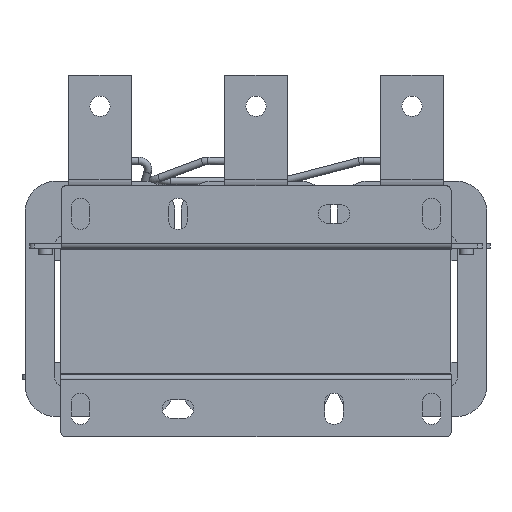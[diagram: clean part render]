
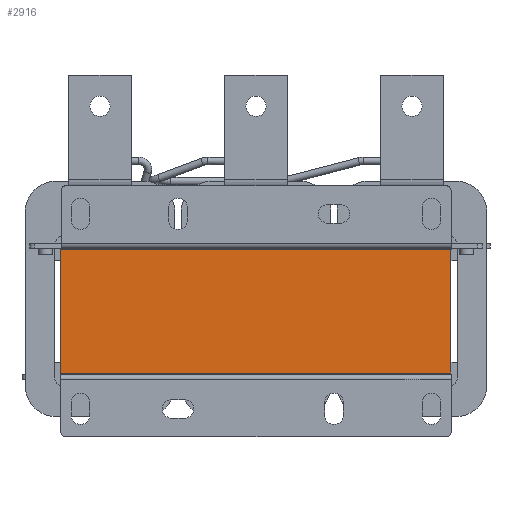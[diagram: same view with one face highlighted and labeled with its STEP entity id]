
A CAD part, front view. The second image highlights one B-rep face of the part: STEP entity #2916.
In plain terms, the highlighted planar face has unit normal (0, -1, 0).
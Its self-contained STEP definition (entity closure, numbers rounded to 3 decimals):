
#2916=ADVANCED_FACE('',(#9805),#9807,.F.);
#9805=FACE_BOUND('',#9806,.T.);
#9806=EDGE_LOOP('',(#18715,#18716,#18717,#18718));
#9807=PLANE('',#9808);
#9808=AXIS2_PLACEMENT_3D('',#9809,#9810,#9811);
#9809=CARTESIAN_POINT('',(-125.,-139.5,79.));
#9810=DIRECTION('',(0.,1.,0.));
#9811=DIRECTION('',(0.,0.,1.));
#18715=ORIENTED_EDGE('',*,*,#22254,.T.);
#18716=ORIENTED_EDGE('',*,*,#22266,.F.);
#18717=ORIENTED_EDGE('',*,*,#22244,.F.);
#18718=ORIENTED_EDGE('',*,*,#22268,.T.);
#22244=EDGE_CURVE('',#24045,#24040,#24047,.T.);
#22254=EDGE_CURVE('',#24067,#24064,#24068,.T.);
#22266=EDGE_CURVE('',#24040,#24064,#24089,.T.);
#22268=EDGE_CURVE('',#24045,#24067,#24091,.T.);
#24040=VERTEX_POINT('',#27085);
#24045=VERTEX_POINT('',#27094);
#24047=LINE('',#27098,#27099);
#24064=VERTEX_POINT('',#27133);
#24067=VERTEX_POINT('',#27138);
#24068=LINE('',#27139,#27140);
#24089=LINE('',#27184,#27185);
#24091=LINE('',#27190,#27191);
#27085=CARTESIAN_POINT('',(125.,-139.5,79.));
#27094=CARTESIAN_POINT('',(-125.,-139.5,79.));
#27098=CARTESIAN_POINT('',(-125.,-139.5,79.));
#27099=VECTOR('',#27100,1.);
#27100=DIRECTION('',(1.,0.,0.));
#27133=CARTESIAN_POINT('',(125.,-139.5,0.));
#27138=CARTESIAN_POINT('',(-125.,-139.5,0.));
#27139=CARTESIAN_POINT('',(-125.,-139.5,0.));
#27140=VECTOR('',#27141,1.);
#27141=DIRECTION('',(1.,0.,0.));
#27184=CARTESIAN_POINT('',(125.,-139.5,79.));
#27185=VECTOR('',#27186,1.);
#27186=DIRECTION('',(0.,0.,-1.));
#27190=CARTESIAN_POINT('',(-125.,-139.5,79.));
#27191=VECTOR('',#27192,1.);
#27192=DIRECTION('',(0.,0.,-1.));
